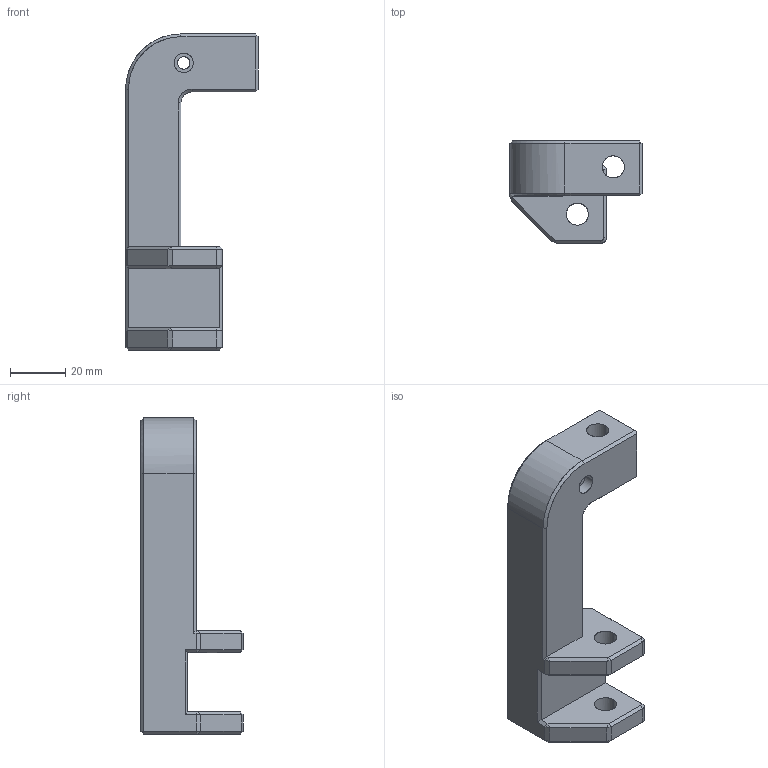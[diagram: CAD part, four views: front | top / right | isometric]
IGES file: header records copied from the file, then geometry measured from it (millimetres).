
Start section: Comment
Global section: file name: Prolunga-pedalina-SX.igs; native system:  By UGS Corp.; preprocessor: XPlus GENERIC/IGES 3.0; author: Author; organization: Title; date: 20080511.160453; units: inch
Bounding box: 48 x 37 x 114.5 mm (x, y, z)
Surface area: 15988.9 mm2 (no closed solid volume)
Topology: 0 solids, 0 shells, 90 faces, 404 edges, 404 vertices
Faces by surface type: bspline 90
